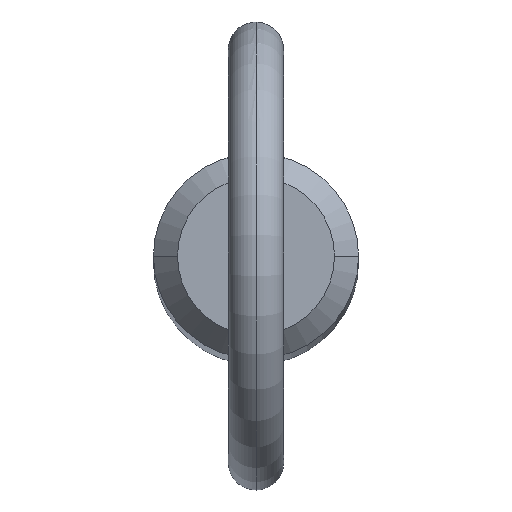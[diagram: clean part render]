
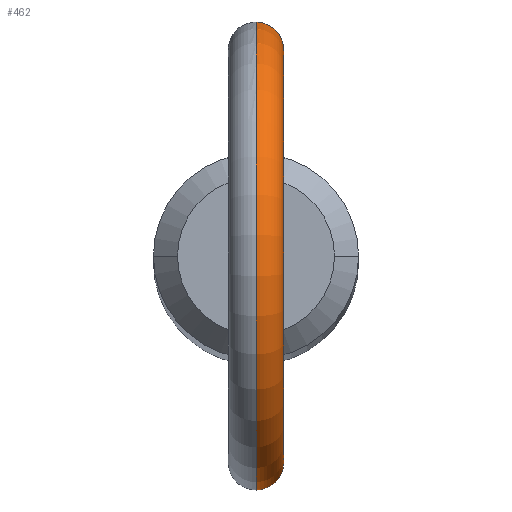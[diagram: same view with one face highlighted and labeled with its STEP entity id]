
A CAD part, top view. The second image highlights one B-rep face of the part: STEP entity #462.
In plain terms, the highlighted toroidal (fillet/blend) face has major radius 11.2 mm and minor radius 1.5 mm.
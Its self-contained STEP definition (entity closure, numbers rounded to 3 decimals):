
#1 = CARTESIAN_POINT ( 'NONE',  ( 0., 5.55, 172.345 ) ) ;
#6 = B_SPLINE_CURVE_WITH_KNOTS ( 'NONE', 3,
 ( #89, #174, #130, #221, #381, #383, #419, #458, #87, #52, #172, #10, #336, #94, #427, #502, #135, #308, #382, #226, #58, #47, #304, #183, #345, #55 ),
 .UNSPECIFIED., .F., .F.,
 ( 4, 2, 2, 2, 2, 2, 2, 2, 2, 2, 2, 2, 4 ),
 ( 0.005, 0.005, 0.005, 0.006, 0.006, 0.007, 0.007, 0.008, 0.008, 0.009, 0.009, 0.009, 0.01 ),
 .UNSPECIFIED. ) ;
#10 = CARTESIAN_POINT ( 'NONE',  ( 1.503, -5.343, 170.459 ) ) ;
#18 = EDGE_CURVE ( 'NONE', #215, #37, #6, .T. ) ;
#27 = CARTESIAN_POINT ( 'NONE',  ( 1.294, 5.398, 171.385 ) ) ;
#33 = CARTESIAN_POINT ( 'NONE',  ( 1.485, 5.348, 170.778 ) ) ;
#37 = VERTEX_POINT ( 'NONE', #262 ) ;
#47 = CARTESIAN_POINT ( 'NONE',  ( 0.523, -5.526, 168.966 ) ) ;
#49 = CIRCLE ( 'NONE', #504, 12.7 ) ;
#52 = CARTESIAN_POINT ( 'NONE',  ( 1.44, -5.36, 170.986 ) ) ;
#53 = CARTESIAN_POINT ( 'NONE',  ( 0., -5.55, 172.345 ) ) ;
#55 = CARTESIAN_POINT ( 'NONE',  ( 0., -5.55, 168.877 ) ) ;
#58 = CARTESIAN_POINT ( 'NONE',  ( 0.716, -5.504, 169.052 ) ) ;
#64 = CARTESIAN_POINT ( 'NONE',  ( 1.003, 5.459, 171.825 ) ) ;
#68 = CARTESIAN_POINT ( 'NONE',  ( 0., 0., 180.3 ) ) ;
#83 = B_SPLINE_CURVE_WITH_KNOTS ( 'NONE', 3,
 ( #317, #356, #440, #193, #406, #195, #484, #478, #242, #272, #476, #233, #239, #33, #237, #27, #353, #64, #320, #515, #106, #325, #269, #197 ),
 .UNSPECIFIED., .F., .F.,
 ( 4, 2, 2, 2, 2, 2, 2, 2, 2, 2, 2, 4 ),
 ( 0.001, 0.001, 0.001, 0.002, 0.002, 0.002, 0.003, 0.004, 0.004, 0.005, 0.005, 0.006 ),
 .UNSPECIFIED. ) ;
#85 = EDGE_CURVE ( 'NONE', #525, #215, #473, .T. ) ;
#87 = CARTESIAN_POINT ( 'NONE',  ( 1.295, -5.397, 171.382 ) ) ;
#89 = CARTESIAN_POINT ( 'NONE',  ( 0., -5.55, 172.345 ) ) ;
#94 = CARTESIAN_POINT ( 'NONE',  ( 1.477, -5.35, 170.144 ) ) ;
#106 = CARTESIAN_POINT ( 'NONE',  ( 0.694, 5.507, 172.114 ) ) ;
#130 = CARTESIAN_POINT ( 'NONE',  ( 0.214, -5.547, 172.328 ) ) ;
#135 = CARTESIAN_POINT ( 'NONE',  ( 1.26, -5.407, 169.543 ) ) ;
#153 = VERTEX_POINT ( 'NONE', #354 ) ;
#172 = CARTESIAN_POINT ( 'NONE',  ( 1.486, -5.347, 170.774 ) ) ;
#174 = CARTESIAN_POINT ( 'NONE',  ( 0.106, -5.55, 172.345 ) ) ;
#183 = CARTESIAN_POINT ( 'NONE',  ( 0.213, -5.547, 168.888 ) ) ;
#193 = CARTESIAN_POINT ( 'NONE',  ( 0.419, 5.535, 168.932 ) ) ;
#195 = CARTESIAN_POINT ( 'NONE',  ( 0.81, 5.494, 169.095 ) ) ;
#197 = CARTESIAN_POINT ( 'NONE',  ( 0., 5.55, 172.345 ) ) ;
#213 = CARTESIAN_POINT ( 'NONE',  ( 0., 0., 180.3 ) ) ;
#215 = VERTEX_POINT ( 'NONE', #53 ) ;
#221 = CARTESIAN_POINT ( 'NONE',  ( 0.417, -5.535, 172.267 ) ) ;
#225 = CARTESIAN_POINT ( 'NONE',  ( 0., 0., 180.3 ) ) ;
#226 = CARTESIAN_POINT ( 'NONE',  ( 0.807, -5.492, 169.106 ) ) ;
#233 = CARTESIAN_POINT ( 'NONE',  ( 1.486, 5.348, 170.138 ) ) ;
#234 = TOROIDAL_SURFACE ( 'NONE', #322, 11.2, 1.5 ) ;
#237 = CARTESIAN_POINT ( 'NONE',  ( 1.44, 5.36, 170.988 ) ) ;
#239 = CARTESIAN_POINT ( 'NONE',  ( 1.509, 5.341, 170.353 ) ) ;
#242 = CARTESIAN_POINT ( 'NONE',  ( 1.251, 5.407, 169.55 ) ) ;
#262 = CARTESIAN_POINT ( 'NONE',  ( 0., -5.55, 168.877 ) ) ;
#269 = CARTESIAN_POINT ( 'NONE',  ( 0.213, 5.55, 172.345 ) ) ;
#272 = CARTESIAN_POINT ( 'NONE',  ( 1.352, 5.383, 169.735 ) ) ;
#285 = DIRECTION ( 'NONE',  ( 1., 0., 0. ) ) ;
#304 = CARTESIAN_POINT ( 'NONE',  ( 0.421, -5.535, 168.932 ) ) ;
#308 = CARTESIAN_POINT ( 'NONE',  ( 1.055, -5.449, 169.305 ) ) ;
#317 = CARTESIAN_POINT ( 'NONE',  ( 0., 5.55, 168.877 ) ) ;
#320 = CARTESIAN_POINT ( 'NONE',  ( 0.933, 5.472, 171.904 ) ) ;
#322 = AXIS2_PLACEMENT_3D ( 'NONE', #213, #285, #329 ) ;
#325 = CARTESIAN_POINT ( 'NONE',  ( 0.422, 5.537, 172.278 ) ) ;
#329 = DIRECTION ( 'NONE',  ( 0., 0., -1. ) ) ;
#332 = EDGE_LOOP ( 'NONE', ( #438, #457, #433, #337 ) ) ;
#336 = CARTESIAN_POINT ( 'NONE',  ( 1.5, -5.343, 170.354 ) ) ;
#337 = ORIENTED_EDGE ( 'NONE', *, *, #85, .F. ) ;
#345 = CARTESIAN_POINT ( 'NONE',  ( 0.107, -5.55, 168.877 ) ) ;
#350 = DIRECTION ( 'NONE',  ( 0., 0., -1. ) ) ;
#353 = CARTESIAN_POINT ( 'NONE',  ( 1.194, 5.422, 171.572 ) ) ;
#354 = CARTESIAN_POINT ( 'NONE',  ( 0., 5.55, 168.877 ) ) ;
#356 = CARTESIAN_POINT ( 'NONE',  ( 0.107, 5.55, 168.877 ) ) ;
#358 = DIRECTION ( 'NONE',  ( 1., 0., 0. ) ) ;
#363 = FACE_OUTER_BOUND ( 'NONE', #332, .T. ) ;
#381 = CARTESIAN_POINT ( 'NONE',  ( 0.515, -5.527, 172.222 ) ) ;
#382 = CARTESIAN_POINT ( 'NONE',  ( 0.977, -5.464, 169.232 ) ) ;
#383 = CARTESIAN_POINT ( 'NONE',  ( 0.786, -5.497, 172.057 ) ) ;
#387 = AXIS2_PLACEMENT_3D ( 'NONE', #225, #505, #350 ) ;
#403 = DIRECTION ( 'NONE',  ( 0., 0., -1. ) ) ;
#405 = EDGE_CURVE ( 'NONE', #153, #525, #83, .T. ) ;
#406 = CARTESIAN_POINT ( 'NONE',  ( 0.522, 5.526, 168.965 ) ) ;
#419 = CARTESIAN_POINT ( 'NONE',  ( 0.941, -5.471, 171.907 ) ) ;
#427 = CARTESIAN_POINT ( 'NONE',  ( 1.455, -5.356, 170.038 ) ) ;
#433 = ORIENTED_EDGE ( 'NONE', *, *, #18, .F. ) ;
#438 = ORIENTED_EDGE ( 'NONE', *, *, #405, .F. ) ;
#439 = EDGE_CURVE ( 'NONE', #153, #37, #49, .T. ) ;
#440 = CARTESIAN_POINT ( 'NONE',  ( 0.212, 5.547, 168.888 ) ) ;
#457 = ORIENTED_EDGE ( 'NONE', *, *, #439, .T. ) ;
#458 = CARTESIAN_POINT ( 'NONE',  ( 1.194, -5.422, 171.571 ) ) ;
#462 = ADVANCED_FACE ( 'NONE', ( #363 ), #234, .T. ) ;
#473 = CIRCLE ( 'NONE', #387, 9.7 ) ;
#476 = CARTESIAN_POINT ( 'NONE',  ( 1.393, 5.372, 169.833 ) ) ;
#478 = CARTESIAN_POINT ( 'NONE',  ( 1.19, 5.421, 169.462 ) ) ;
#484 = CARTESIAN_POINT ( 'NONE',  ( 0.984, 5.464, 169.224 ) ) ;
#502 = CARTESIAN_POINT ( 'NONE',  ( 1.363, -5.38, 169.734 ) ) ;
#504 = AXIS2_PLACEMENT_3D ( 'NONE', #68, #358, #403 ) ;
#505 = DIRECTION ( 'NONE',  ( 1., 0., 0. ) ) ;
#515 = CARTESIAN_POINT ( 'NONE',  ( 0.779, 5.496, 172.048 ) ) ;
#525 = VERTEX_POINT ( 'NONE', #1 ) ;
